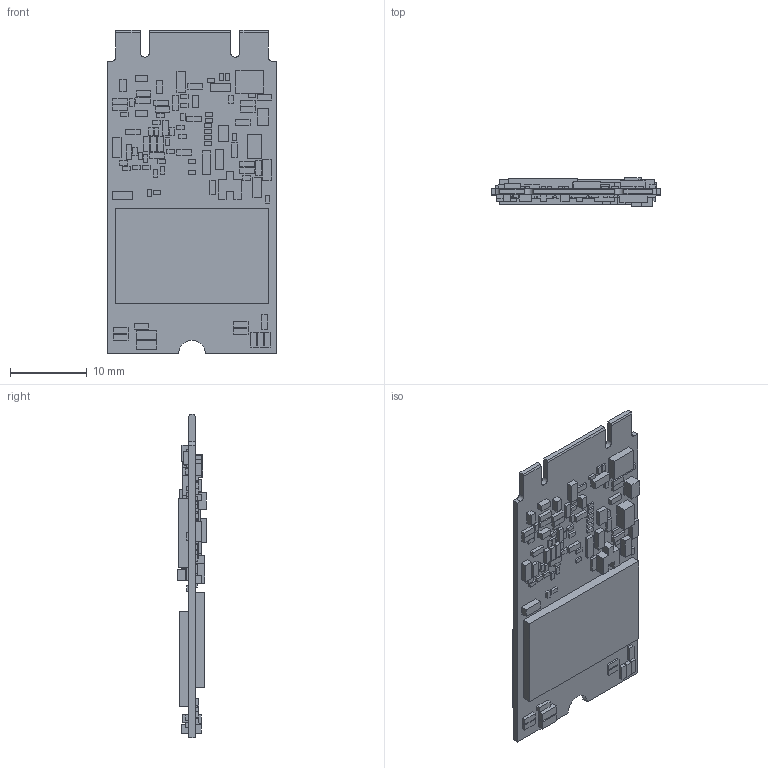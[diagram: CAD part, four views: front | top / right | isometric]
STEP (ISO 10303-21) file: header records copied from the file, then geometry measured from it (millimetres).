
FILE_DESCRIPTION((''),'2;1');
FILE_NAME('PCBA_M2_2242-D5-B-M_ASM','2017-12-25T',('otto_lian'),(''),'PRO/ENGINEER BY PARAMETRIC TECHNOLOGY CORPORATION, 2011180','PRO/ENGINEER BY PARAMETRIC TECHNOLOGY CORPORATION, 2011180','');
FILE_SCHEMA(('CONFIG_CONTROL_DESIGN'));
Length unit declared in the file: millimetre
Products named in the file (28): PCB_M2_2242-B-M; BGA169P_9X9_0P65; F1210; XTAL4P_2016; SOD_323F; SOT_563_6P_1P6X1P2_0P5; DFN10P_3X3_0P5_EP; L_252012; R0805S-SHORTPAD; SOT_23_123; DFN8P_2X2_0P5_EP; NXP_BGA4P_0P9X0P9_0P5; SOT23_6P_2P9X1P6_0P95; L_WQPC2S14_2R2_S; DFN6P_2X2_0P65_EP; R1206; C0402; C0201; C0603; R0402; L0603_LB1206; R0201; LED0603; SOD523_323; C0805; TSOP48P_12X20P4_0P5_TSB; 2076011NP240001N_2017-1225_ASM; PCBA_M2_2242-D5-B-M_ASM
Assembly tree (168 placements, depth 3):
  PCBA_M2_2242-D5-B-M_ASM
    PCB_M2_2242-B-M
    2076011NP240001N_2017-1225_ASM
      BGA169P_9X9_0P65
      F1210
      XTAL4P_2016
      SOD_323F
      SOT_563_6P_1P6X1P2_0P5
      DFN10P_3X3_0P5_EP
      L_252012
      R0805S-SHORTPAD
      SOT_23_123
      DFN8P_2X2_0P5_EP
      NXP_BGA4P_0P9X0P9_0P5
      SOT23_6P_2P9X1P6_0P95
      L_WQPC2S14_2R2_S
      DFN6P_2X2_0P65_EP
      R1206
      C0402  x36
      C0201  x39
      C0603  x15
      R0402  x22
      L0603_LB1206  x5
      R0201  x26
      LED0603  x2
      SOD523_323  x2
      C0805  x2
      TSOP48P_12X20P4_0P5_TSB  x2
Bounding box: 22 x 3.7 x 42 mm (x, y, z)
Volume: 1607.7 mm3; surface area: 4282.1 mm2
Topology: 167 solids, 167 shells, 1032 faces, 2387 edges, 1690 vertices
Faces by surface type: plane 1027, cylinder 5
Entity records: 9307 total; most frequent: DIRECTION 1873, CARTESIAN_POINT 1540, ORIENTED_EDGE 804, VECTOR 671, LINE 671, AXIS2_PLACEMENT_3D 601, EDGE_CURVE 402, TRIMMED_CURVE 293
